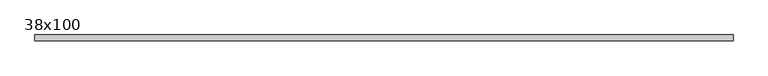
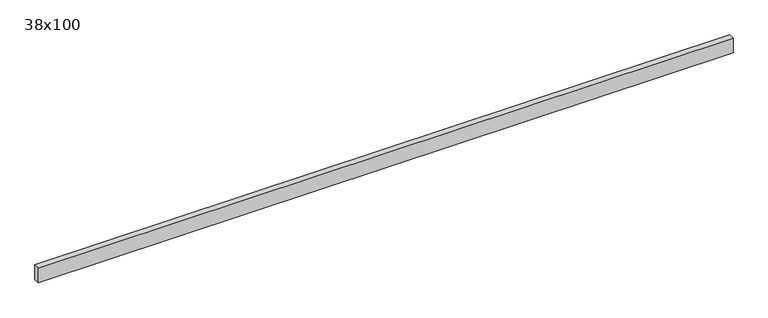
"""IFC4 building model written with IfcOpenShell, lengths in millimetres: beam geometry, Poutre - Bois de construction de dimensions courantes : 38x100."""

from ifc_helpers import new_model, si_unit, frame, origin, place, context, project, spatial, polyline, outline, extrude, source, transform, mapped, element, save


def beam_38x100_56d704ad(model_context):
    return source(origin(), model_context, "Body", "SweptSolid", [
        extrude(outline(polyline([(2171.0, 19.05), (2171.0, -19.05), (-2331.0, -19.05), (-2331.0, 19.05), (2171.0, 19.05)])), frame((0.0, 0.0, -50.0), z_axis=(0.0, 0.0, 1.0), x_axis=(1.0, 0.0, 0.0)), (0.0, 0.0, 1.0), 100.0),
    ])


if __name__ == "__main__":
    model = new_model("IFC4")
    model_context = context("Model", 3, world=origin())
    ifc_project = project(units=[si_unit("LENGTHUNIT", "METRE", prefix="MILLI")], contexts=[model_context])
    site = spatial("IfcSite", under=ifc_project)
    building = spatial("IfcBuilding", under=site)
    placement = place(None, origin())
    beam_38x100_shape = beam_38x100_56d704ad(model_context)
    element("IfcBeam", 1, ObjectType="Poutre - Bois de construction de dimensions courantes : 38x100", at=placement, inside=building, context=model_context, shape_type="MappedRepresentation", body=[
        mapped(beam_38x100_shape, transform((0.0, 0.0, 0.0), x_axis=(1.0, 0.0, 0.0), y_axis=(0.0, 1.0, 0.0), z_axis=(0.0, 0.0, 1.0))),
    ])
    save(model, "model.ifc")
